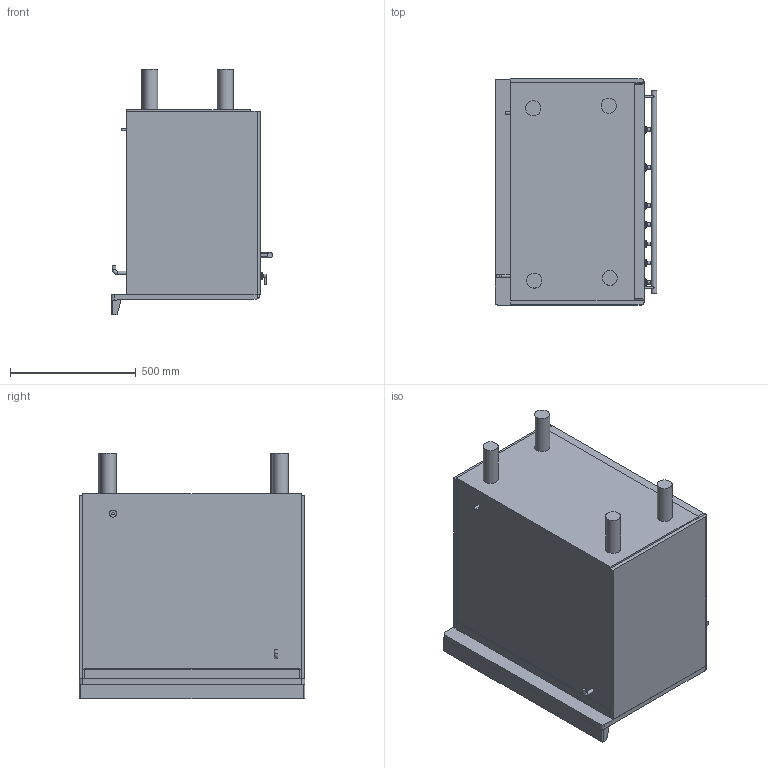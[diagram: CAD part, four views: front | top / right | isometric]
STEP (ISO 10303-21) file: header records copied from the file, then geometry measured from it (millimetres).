
FILE_DESCRIPTION(/* description */ (''),/* implementation_level */ '2;1');
FILE_NAME(/* name */ 'cucina scd91cmx9.stp',/* time_stamp */ '2018-09-21T10:57:03+02:00',/* author */ (''),/* organization */ (''),/* preprocessor_version */ 'ST-DEVELOPER v16',/* originating_system */ 'SIEMENS PLM Software NX 11.0',/* authorisation */ '');
FILE_SCHEMA (('AUTOMOTIVE_DESIGN { 1 0 10303 214 3 1 1 1 }'));
Length unit declared in the file: millimetre
Products named in the file (1): gobb506094A3e7n0
Bounding box: 643 x 898 x 975.87 mm (x, y, z)
Volume: 347152278.8 mm3; surface area: 8655610.4 mm2
Topology: 46 solids, 46 shells, 393 faces, 790 edges, 517 vertices
Faces by surface type: plane 227, cylinder 105, torus 36, cone 14, extrusion 11
Full cylindrical faces by diameter (mm): 4.608 x6, 6 x7, 7 x9, 10 x1, 14 x2, 14.996 x7, 17 x7, 22 x8, 28 x1, 60 x4
Entity records: 10404 total; most frequent: CARTESIAN_POINT 2150, DIRECTION 1684, ORIENTED_EDGE 1366, EDGE_CURVE 683, AXIS2_PLACEMENT_3D 654, EDGE_LOOP 529, VERTEX_POINT 506, ADVANCED_FACE 393
